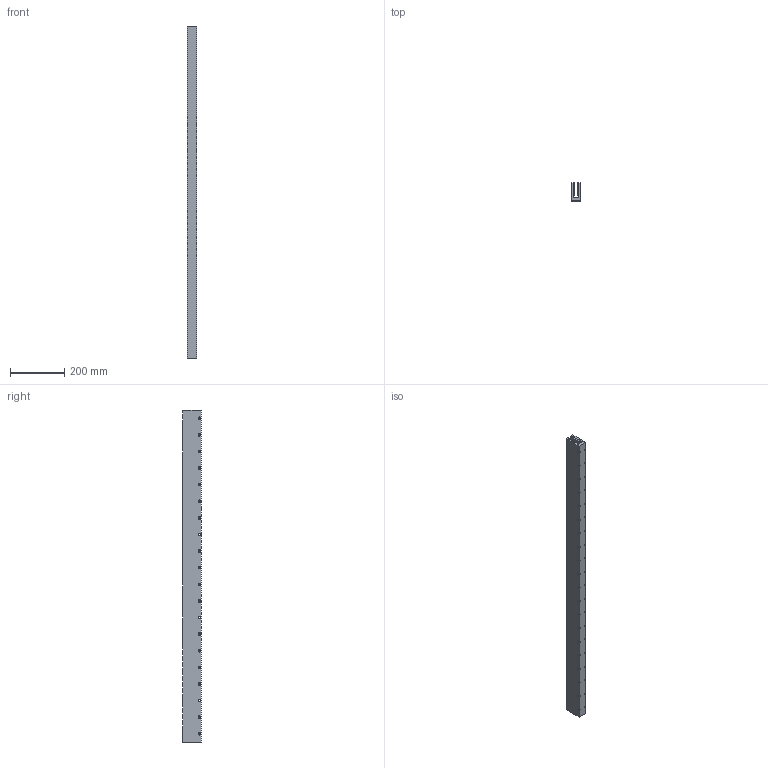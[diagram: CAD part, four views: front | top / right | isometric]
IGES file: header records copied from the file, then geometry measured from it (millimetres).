
Global section: file name: No Iges File Name specified; native system: Autodesk Inventor 2012; preprocessor: AutoDesk Inventor Iges Exporter R2012; author: je17857; date: 20120511.155718; units: inch
Bounding box: 34.29 x 67.31 x 1218.95 mm (x, y, z)
Volume: 1812617.4 mm3; surface area: 461742.5 mm2
Topology: 1 solids, 1 shells, 510 faces, 1164 edges, 776 vertices
Faces by surface type: plane 450, revolution 60
